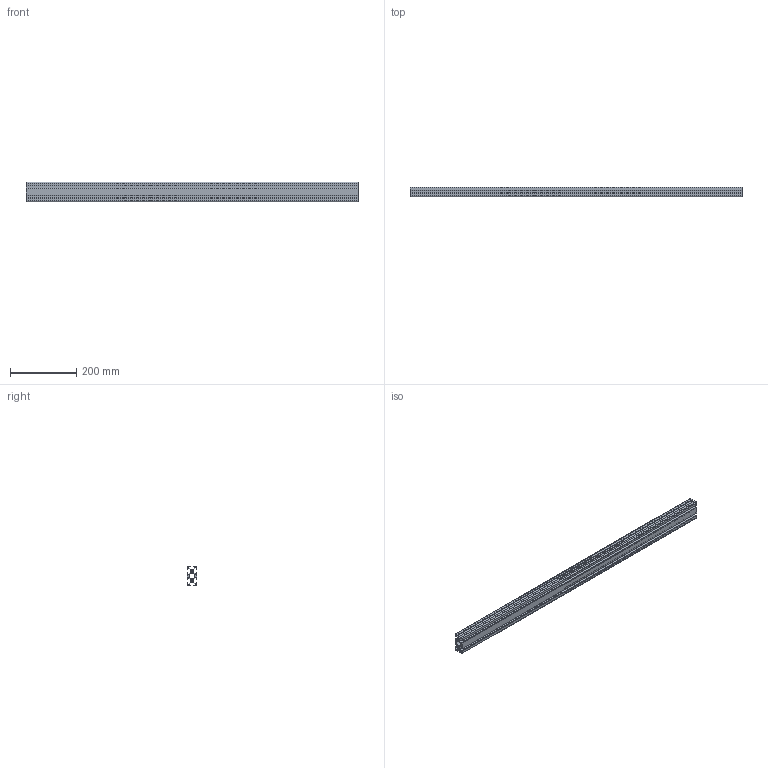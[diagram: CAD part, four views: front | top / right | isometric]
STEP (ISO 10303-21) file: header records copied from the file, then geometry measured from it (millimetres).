
FILE_DESCRIPTION (( 'STEP AP214' ), '1' );
FILE_NAME ('10417_PRO_8_60x30.STEP', '2016-02-29T15:18:34', ( '' ), ( '' ), 'SwSTEP 2.0', 'SolidWorks 2015', '' );
FILE_SCHEMA (( 'AUTOMOTIVE_DESIGN' ));
Length unit declared in the file: millimetre
Products named in the file (1): 10417_PRO_8_60x30
Bounding box: 1000 x 30 x 60 mm (x, y, z)
Volume: 678545.8 mm3; surface area: 476337.4 mm2
Topology: 1 solids, 1 shells, 116 faces, 342 edges, 228 vertices
Faces by surface type: cylinder 62, plane 54
Entity records: 3956 total; most frequent: DIRECTION 700, CARTESIAN_POINT 687, ORIENTED_EDGE 684, EDGE_CURVE 342, AXIS2_PLACEMENT_3D 241, VERTEX_POINT 228, LINE 218, VECTOR 218
